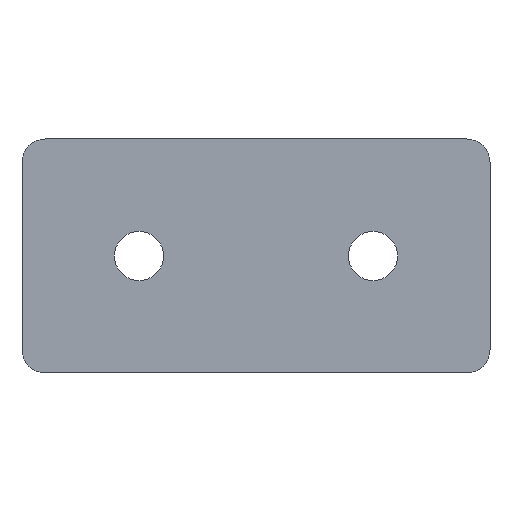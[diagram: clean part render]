
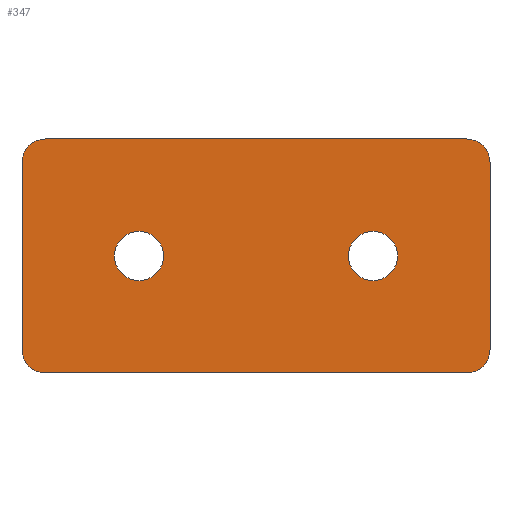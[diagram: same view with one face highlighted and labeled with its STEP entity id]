
A CAD part, front view. The second image highlights one B-rep face of the part: STEP entity #347.
In plain terms, the highlighted planar face has unit normal (0, -1, 0).
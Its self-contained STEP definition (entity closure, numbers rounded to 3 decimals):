
#1 = ORIENTED_EDGE ( 'NONE', *, *, #386, .T. ) ;
#3 = DIRECTION ( 'NONE',  ( 0., 0., 1. ) ) ;
#8 = CIRCLE ( 'NONE', #74, 3. ) ;
#11 = VECTOR ( 'NONE', #328, 1000. ) ;
#14 = CARTESIAN_POINT ( 'NONE',  ( -30., -4., -12. ) ) ;
#17 = CIRCLE ( 'NONE', #145, 3.15 ) ;
#21 = DIRECTION ( 'NONE',  ( 0., 1., 0. ) ) ;
#26 = DIRECTION ( 'NONE',  ( 0., 1., 0. ) ) ;
#29 = ORIENTED_EDGE ( 'NONE', *, *, #191, .T. ) ;
#32 = LINE ( 'NONE', #174, #11 ) ;
#36 = DIRECTION ( 'NONE',  ( 0., 1., 0. ) ) ;
#39 = CIRCLE ( 'NONE', #430, 3.15 ) ;
#41 = DIRECTION ( 'NONE',  ( 0., 1., 0. ) ) ;
#44 = CARTESIAN_POINT ( 'NONE',  ( -30., -4., 15. ) ) ;
#45 = EDGE_LOOP ( 'NONE', ( #440, #344 ) ) ;
#46 = CARTESIAN_POINT ( 'NONE',  ( 27., -4., -15. ) ) ;
#52 = VERTEX_POINT ( 'NONE', #14 ) ;
#58 = CARTESIAN_POINT ( 'NONE',  ( -15., -4., 3.15 ) ) ;
#63 = DIRECTION ( 'NONE',  ( 0., -1., 0. ) ) ;
#72 = VERTEX_POINT ( 'NONE', #58 ) ;
#74 = AXIS2_PLACEMENT_3D ( 'NONE', #144, #480, #202 ) ;
#77 = VERTEX_POINT ( 'NONE', #200 ) ;
#86 = VECTOR ( 'NONE', #340, 1000. ) ;
#94 = VERTEX_POINT ( 'NONE', #472 ) ;
#106 = ORIENTED_EDGE ( 'NONE', *, *, #471, .T. ) ;
#115 = VECTOR ( 'NONE', #476, 1000. ) ;
#117 = ORIENTED_EDGE ( 'NONE', *, *, #367, .F. ) ;
#120 = ORIENTED_EDGE ( 'NONE', *, *, #217, .T. ) ;
#123 = ORIENTED_EDGE ( 'NONE', *, *, #164, .T. ) ;
#124 = DIRECTION ( 'NONE',  ( 0., -1., 0. ) ) ;
#126 = CARTESIAN_POINT ( 'NONE',  ( 30., -4., 12. ) ) ;
#129 = DIRECTION ( 'NONE',  ( 0., 0., 1. ) ) ;
#130 = EDGE_CURVE ( 'NONE', #52, #374, #8, .T. ) ;
#134 = CIRCLE ( 'NONE', #212, 3.15 ) ;
#141 = ORIENTED_EDGE ( 'NONE', *, *, #143, .T. ) ;
#143 = EDGE_CURVE ( 'NONE', #232, #77, #39, .T. ) ;
#144 = CARTESIAN_POINT ( 'NONE',  ( -27., -4., -12. ) ) ;
#145 = AXIS2_PLACEMENT_3D ( 'NONE', #338, #41, #3 ) ;
#152 = DIRECTION ( 'NONE',  ( 0., -1., 0. ) ) ;
#159 = EDGE_CURVE ( 'NONE', #72, #461, #488, .T. ) ;
#161 = VERTEX_POINT ( 'NONE', #169 ) ;
#164 = EDGE_CURVE ( 'NONE', #161, #52, #246, .T. ) ;
#168 = EDGE_CURVE ( 'NONE', #77, #232, #134, .T. ) ;
#169 = CARTESIAN_POINT ( 'NONE',  ( -30., -4., 12. ) ) ;
#174 = CARTESIAN_POINT ( 'NONE',  ( -30., -4., -15. ) ) ;
#175 = AXIS2_PLACEMENT_3D ( 'NONE', #228, #124, #378 ) ;
#179 = VERTEX_POINT ( 'NONE', #482 ) ;
#183 = AXIS2_PLACEMENT_3D ( 'NONE', #444, #63, #357 ) ;
#189 = CARTESIAN_POINT ( 'NONE',  ( 30., -4., 15. ) ) ;
#191 = EDGE_CURVE ( 'NONE', #374, #354, #32, .T. ) ;
#192 = CIRCLE ( 'NONE', #175, 3. ) ;
#194 = EDGE_LOOP ( 'NONE', ( #123, #266, #29, #106, #117, #120, #250, #1 ) ) ;
#200 = CARTESIAN_POINT ( 'NONE',  ( 15., -4., -3.15 ) ) ;
#202 = DIRECTION ( 'NONE',  ( 0., 0., 1. ) ) ;
#208 = DIRECTION ( 'NONE',  ( 0., 1., 0. ) ) ;
#212 = AXIS2_PLACEMENT_3D ( 'NONE', #251, #26, #445 ) ;
#217 = EDGE_CURVE ( 'NONE', #329, #280, #400, .T. ) ;
#227 = EDGE_LOOP ( 'NONE', ( #335, #141 ) ) ;
#228 = CARTESIAN_POINT ( 'NONE',  ( 27., -4., -12. ) ) ;
#232 = VERTEX_POINT ( 'NONE', #365 ) ;
#235 = AXIS2_PLACEMENT_3D ( 'NONE', #320, #208, #361 ) ;
#246 = LINE ( 'NONE', #401, #115 ) ;
#250 = ORIENTED_EDGE ( 'NONE', *, *, #334, .F. ) ;
#251 = CARTESIAN_POINT ( 'NONE',  ( 15., -4., 0. ) ) ;
#252 = EDGE_CURVE ( 'NONE', #461, #72, #17, .T. ) ;
#265 = CARTESIAN_POINT ( 'NONE',  ( 27., -4., 15. ) ) ;
#266 = ORIENTED_EDGE ( 'NONE', *, *, #130, .T. ) ;
#280 = VERTEX_POINT ( 'NONE', #265 ) ;
#291 = FACE_BOUND ( 'NONE', #227, .T. ) ;
#304 = CARTESIAN_POINT ( 'NONE',  ( -15., -4., -3.15 ) ) ;
#320 = CARTESIAN_POINT ( 'NONE',  ( -15., -4., 0. ) ) ;
#328 = DIRECTION ( 'NONE',  ( 1., 0., 0. ) ) ;
#329 = VERTEX_POINT ( 'NONE', #126 ) ;
#331 = LINE ( 'NONE', #44, #86 ) ;
#333 = FACE_OUTER_BOUND ( 'NONE', #194, .T. ) ;
#334 = EDGE_CURVE ( 'NONE', #179, #280, #331, .T. ) ;
#335 = ORIENTED_EDGE ( 'NONE', *, *, #168, .T. ) ;
#338 = CARTESIAN_POINT ( 'NONE',  ( -15., -4., 0. ) ) ;
#340 = DIRECTION ( 'NONE',  ( 1., 0., 0. ) ) ;
#343 = DIRECTION ( 'NONE',  ( 0., 0., -1. ) ) ;
#344 = ORIENTED_EDGE ( 'NONE', *, *, #159, .T. ) ;
#346 = AXIS2_PLACEMENT_3D ( 'NONE', #412, #152, #451 ) ;
#347 = ADVANCED_FACE ( 'NONE', ( #373, #291, #333 ), #453, .F. ) ;
#354 = VERTEX_POINT ( 'NONE', #46 ) ;
#356 = DIRECTION ( 'NONE',  ( 0., 0., 1. ) ) ;
#357 = DIRECTION ( 'NONE',  ( 0., 0., 1. ) ) ;
#361 = DIRECTION ( 'NONE',  ( 0., 0., 1. ) ) ;
#365 = CARTESIAN_POINT ( 'NONE',  ( 15., -4., 3.15 ) ) ;
#367 = EDGE_CURVE ( 'NONE', #329, #94, #449, .T. ) ;
#373 = FACE_BOUND ( 'NONE', #45, .T. ) ;
#374 = VERTEX_POINT ( 'NONE', #489 ) ;
#378 = DIRECTION ( 'NONE',  ( 0., 0., 1. ) ) ;
#386 = EDGE_CURVE ( 'NONE', #179, #161, #395, .T. ) ;
#395 = CIRCLE ( 'NONE', #346, 3. ) ;
#400 = CIRCLE ( 'NONE', #183, 3. ) ;
#401 = CARTESIAN_POINT ( 'NONE',  ( -30., -4., 15. ) ) ;
#412 = CARTESIAN_POINT ( 'NONE',  ( -27., -4., 12. ) ) ;
#420 = VECTOR ( 'NONE', #343, 1000. ) ;
#430 = AXIS2_PLACEMENT_3D ( 'NONE', #441, #21, #356 ) ;
#437 = AXIS2_PLACEMENT_3D ( 'NONE', #485, #36, #129 ) ;
#440 = ORIENTED_EDGE ( 'NONE', *, *, #252, .T. ) ;
#441 = CARTESIAN_POINT ( 'NONE',  ( 15., -4., 0. ) ) ;
#444 = CARTESIAN_POINT ( 'NONE',  ( 27., -4., 12. ) ) ;
#445 = DIRECTION ( 'NONE',  ( 0., 0., 1. ) ) ;
#449 = LINE ( 'NONE', #189, #420 ) ;
#451 = DIRECTION ( 'NONE',  ( 0., 0., 1. ) ) ;
#453 = PLANE ( 'NONE',  #437 ) ;
#461 = VERTEX_POINT ( 'NONE', #304 ) ;
#471 = EDGE_CURVE ( 'NONE', #354, #94, #192, .T. ) ;
#472 = CARTESIAN_POINT ( 'NONE',  ( 30., -4., -12. ) ) ;
#476 = DIRECTION ( 'NONE',  ( 0., 0., -1. ) ) ;
#480 = DIRECTION ( 'NONE',  ( 0., -1., 0. ) ) ;
#482 = CARTESIAN_POINT ( 'NONE',  ( -27., -4., 15. ) ) ;
#485 = CARTESIAN_POINT ( 'NONE',  ( -30., -4., 15. ) ) ;
#488 = CIRCLE ( 'NONE', #235, 3.15 ) ;
#489 = CARTESIAN_POINT ( 'NONE',  ( -27., -4., -15. ) ) ;
